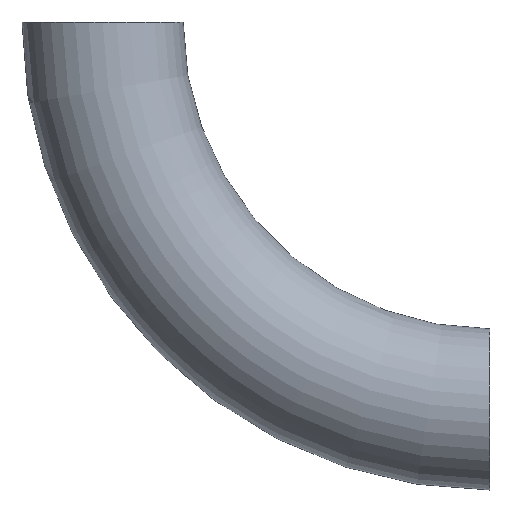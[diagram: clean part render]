
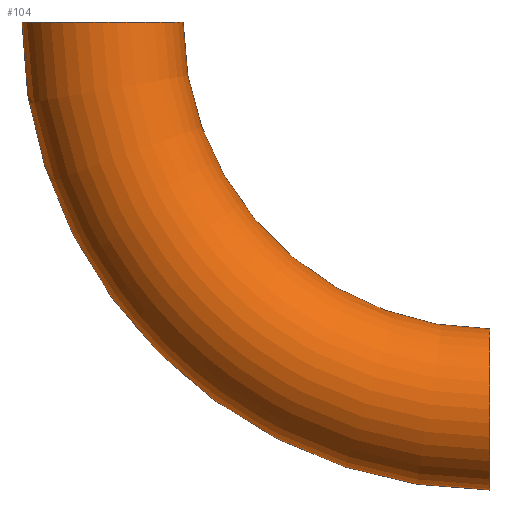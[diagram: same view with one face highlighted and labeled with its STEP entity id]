
A CAD part, front view. The second image highlights one B-rep face of the part: STEP entity #104.
In plain terms, the highlighted toroidal (fillet/blend) face has major radius 250 mm and minor radius 52 mm.
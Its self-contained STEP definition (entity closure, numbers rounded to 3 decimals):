
#1 = CARTESIAN_POINT ( 'NONE',  ( 0., 0., -302. ) ) ;
#2 = DIRECTION ( 'NONE',  ( 0., 1., 0. ) ) ;
#6 = ORIENTED_EDGE ( 'NONE', *, *, #31, .F. ) ;
#11 = CIRCLE ( 'NONE', #144, 52. ) ;
#20 = CIRCLE ( 'NONE', #237, 302. ) ;
#28 = VERTEX_POINT ( 'NONE', #146 ) ;
#31 = EDGE_CURVE ( 'NONE', #110, #28, #20, .T. ) ;
#36 = EDGE_CURVE ( 'NONE', #85, #109, #118, .T. ) ;
#47 = DIRECTION ( 'NONE',  ( 0., 1., 0. ) ) ;
#62 = EDGE_CURVE ( 'NONE', #110, #85, #11, .T. ) ;
#64 = CARTESIAN_POINT ( 'NONE',  ( -198., 0., 0. ) ) ;
#68 = CARTESIAN_POINT ( 'NONE',  ( 0., 0., 0. ) ) ;
#70 = EDGE_LOOP ( 'NONE', ( #6, #167, #91, #108 ) ) ;
#85 = VERTEX_POINT ( 'NONE', #215 ) ;
#86 = AXIS2_PLACEMENT_3D ( 'NONE', #218, #2, #179 ) ;
#91 = ORIENTED_EDGE ( 'NONE', *, *, #36, .T. ) ;
#97 = DIRECTION ( 'NONE',  ( -1., 0., 0. ) ) ;
#99 = FACE_OUTER_BOUND ( 'NONE', #70, .T. ) ;
#102 = CIRCLE ( 'NONE', #133, 52. ) ;
#104 = ADVANCED_FACE ( 'NONE', ( #99 ), #176, .T. ) ;
#108 = ORIENTED_EDGE ( 'NONE', *, *, #194, .F. ) ;
#109 = VERTEX_POINT ( 'NONE', #64 ) ;
#110 = VERTEX_POINT ( 'NONE', #1 ) ;
#118 = CIRCLE ( 'NONE', #162, 198. ) ;
#133 = AXIS2_PLACEMENT_3D ( 'NONE', #220, #201, #159 ) ;
#144 = AXIS2_PLACEMENT_3D ( 'NONE', #173, #97, #155 ) ;
#146 = CARTESIAN_POINT ( 'NONE',  ( -302., 0., 0. ) ) ;
#155 = DIRECTION ( 'NONE',  ( 0., 0., 1. ) ) ;
#159 = DIRECTION ( 'NONE',  ( 1., 0., 0. ) ) ;
#162 = AXIS2_PLACEMENT_3D ( 'NONE', #222, #47, #248 ) ;
#167 = ORIENTED_EDGE ( 'NONE', *, *, #62, .T. ) ;
#173 = CARTESIAN_POINT ( 'NONE',  ( 0., 0., -250. ) ) ;
#176 = TOROIDAL_SURFACE ( 'NONE', #86, 250., 52. ) ;
#179 = DIRECTION ( 'NONE',  ( 0., 0., 1. ) ) ;
#183 = DIRECTION ( 'NONE',  ( 0., 1., 0. ) ) ;
#194 = EDGE_CURVE ( 'NONE', #28, #109, #102, .T. ) ;
#201 = DIRECTION ( 'NONE',  ( 0., 0., 1. ) ) ;
#215 = CARTESIAN_POINT ( 'NONE',  ( 0., 0., -198. ) ) ;
#218 = CARTESIAN_POINT ( 'NONE',  ( 0., 0., 0. ) ) ;
#220 = CARTESIAN_POINT ( 'NONE',  ( -250., 0., 0. ) ) ;
#222 = CARTESIAN_POINT ( 'NONE',  ( 0., 0., 0. ) ) ;
#237 = AXIS2_PLACEMENT_3D ( 'NONE', #68, #183, #241 ) ;
#241 = DIRECTION ( 'NONE',  ( 0., 0., 1. ) ) ;
#248 = DIRECTION ( 'NONE',  ( 0., 0., 1. ) ) ;
